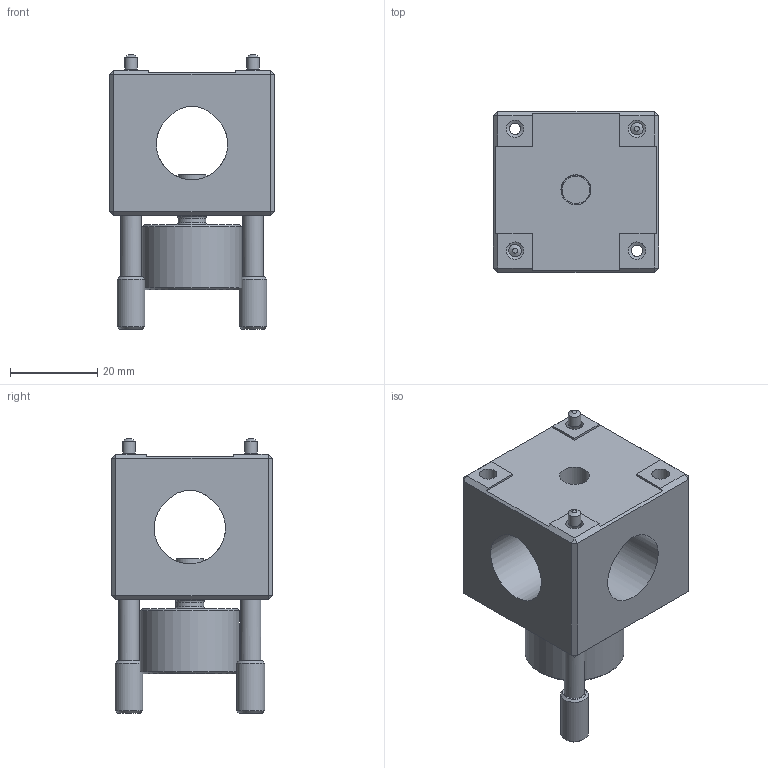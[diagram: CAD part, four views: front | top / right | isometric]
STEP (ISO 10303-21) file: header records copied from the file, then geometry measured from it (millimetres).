
FILE_DESCRIPTION(/* description */ (''),/* implementation_level */ '2;1');
FILE_NAME(/* name */ 'LA_8003_3146_B.stp',/* time_stamp */ '2012-05-10T14:09:49+01:00',/* author */ (''),/* organization */ (''),/* preprocessor_version */ 'ST-DEVELOPER v11',/* originating_system */ 'SIEMENS PLM Software NX 7.5',/* authorisation */ '');
FILE_SCHEMA (('AP203_CONFIGURATION_CONTROLLED_3D_DESIGN_OF_MECHANICAL_PARTS_AND_ASSEMBLIES_MIM_LF'));
Length unit declared in the file: millimetre
Products named in the file (1): js133B79t4hr
Bounding box: 38 x 37 x 63 mm (x, y, z)
Volume: 38321.2 mm3; surface area: 15603.3 mm2
Topology: 1 solids, 1 shells, 477 faces, 1251 edges, 821 vertices
Faces by surface type: plane 337, extrusion 71, cylinder 42, cone 24, torus 3
Full cylindrical faces by diameter (mm): 1.7 x1, 2 x1, 2.25 x2, 2.6 x5, 2.874 x2, 4 x4, 4.7 x2, 5.5 x4, 6.3 x1, 6.4 x3, 6.9 x2, 17.8 x1, 18.2 x1, 18.7 x1, 22.8 x1
Entity records: 15394 total; most frequent: CARTESIAN_POINT 3069, ORIENTED_EDGE 2332, DIRECTION 2001, EDGE_CURVE 1166, VECTOR 987, LINE 916, VERTEX_POINT 795, EDGE_LOOP 592
